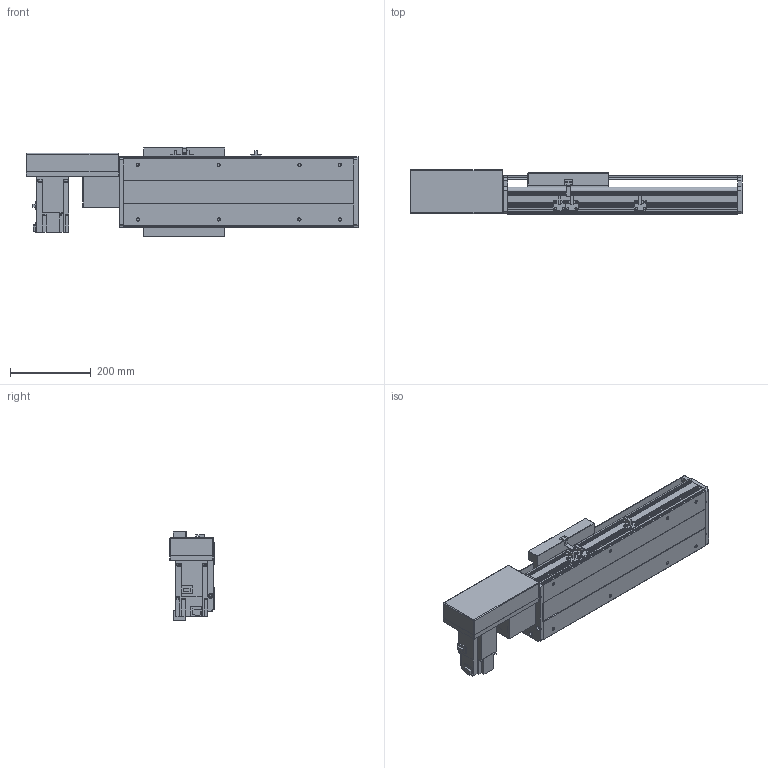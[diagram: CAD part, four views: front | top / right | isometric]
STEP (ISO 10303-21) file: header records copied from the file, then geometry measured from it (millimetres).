
FILE_DESCRIPTION(/* description */ ('STEP AP214'),/* implementation_level */ '2;1');
FILE_NAME(/* name */ 'PBS200-P40-S200-R-T75-C1-N(0)',/* time_stamp */ '2022-06-11T08:01:51+02:00',/* author */ ('License CC BY-ND 4.0'),/* organization */ ('CADENAS'),/* preprocessor_version */ 'ST-DEVELOPER v18.102',/* originating_system */ 'PARTsolutions',/* authorisation */ ' ');
FILE_SCHEMA (('AUTOMOTIVE_DESIGN {1 0 10303 214 3 1 1}'));
Length unit declared in the file: millimetre
Products named in the file (7): PBS200-P40-S200-R-T75-C1-N(0); PBS200_sensor; PBS200_plant; PBS200_sliser; T75-p1; PBS200T-R_motors; PBS200-S200()_body
Assembly tree (8 placements, depth 2):
  PBS200-P40-S200-R-T75-C1-N(0)
    PBS200_sensor  x3
    PBS200_plant
    PBS200_sliser
    T75-p1
    PBS200T-R_motors
    PBS200-S200()_body
Bounding box: 822 x 109 x 221 mm (x, y, z)
Volume: 6241595.4 mm3; surface area: 1032009.3 mm2
Topology: 8 solids, 8 shells, 896 faces, 2334 edges, 1524 vertices
Faces by surface type: plane 566, cylinder 290, cone 40
Full cylindrical faces by diameter (mm): 2.459 x6, 3.242 x4, 4.5 x6, 4.917 x4, 5 x6, 6 x7, 6.6 x8, 6.647 x12, 8 x6, 10 x4, 12 x8, 38 x2, 40 x1, 70 x1
Entity records: 24101 total; most frequent: DIRECTION 4231, CARTESIAN_POINT 4120, ORIENTED_EDGE 3934, EDGE_CURVE 1967, AXIS2_PLACEMENT_3D 1459, VERTEX_POINT 1348, LINE 1313, VECTOR 1313
